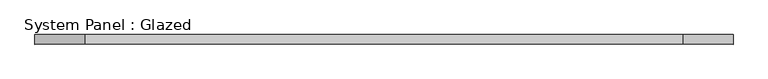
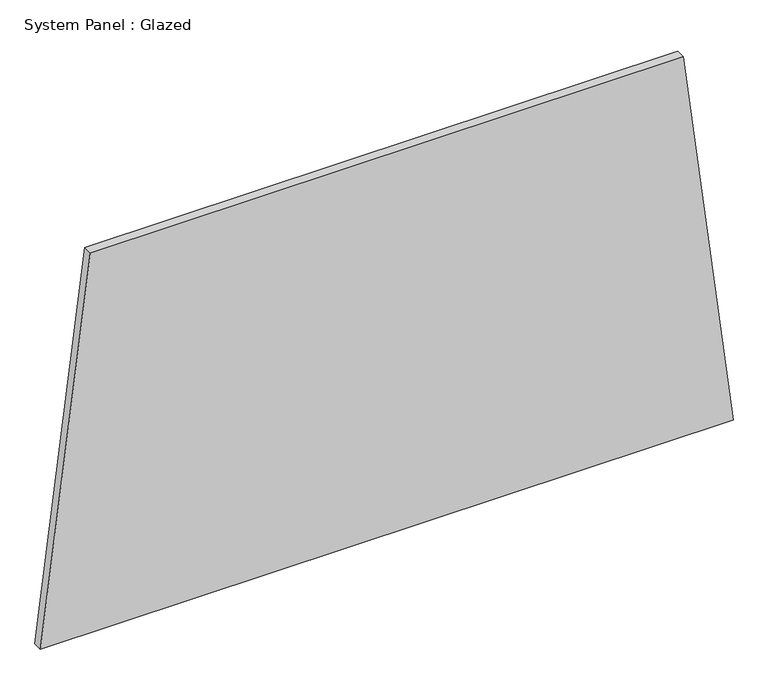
"""IFC4 building model written with IfcOpenShell, lengths in millimetres: plate geometry, System Panel : Glazed."""

from ifc_helpers import new_model, si_unit, frame, origin, place, context, project, spatial, polyline, outline, extrude, source, transform, mapped, element, save


def system_panel_glazed_59e38239(model_context):
    return source(origin(), model_context, "Body", "SweptSolid", [
        extrude(outline(polyline([(0.0, -913.0817547), (0.0, 913.0817547), (1058.634739, 781.344405), (1058.634739, -781.344405), (0.0, -913.0817547)])), frame((0.0, -49.5, 0.0), z_axis=(0.0, 1.0, 0.0), x_axis=(0.0, 0.0, 1.0)), (0.0, 0.0, 1.0), 25.0),
    ])


if __name__ == "__main__":
    model = new_model("IFC4")
    model_context = context("Model", 3, world=origin())
    ifc_project = project(units=[si_unit("LENGTHUNIT", "METRE", prefix="MILLI")], contexts=[model_context])
    site = spatial("IfcSite", under=ifc_project)
    building = spatial("IfcBuilding", under=site)
    placement = place(None, origin())
    system_panel_glazed_shape = system_panel_glazed_59e38239(model_context)
    element("IfcPlate", 1, ObjectType="System Panel : Glazed", at=placement, inside=building, context=model_context, shape_type="MappedRepresentation", body=[
        mapped(system_panel_glazed_shape, transform((0.0, 0.0, 0.0), x_axis=(1.0, 0.0, 0.0), y_axis=(0.0, 1.0, 0.0), z_axis=(0.0, 0.0, 1.0))),
    ])
    save(model, "model.ifc")
